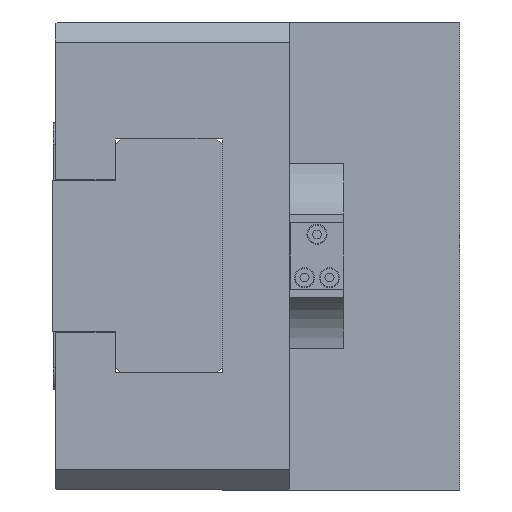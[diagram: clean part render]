
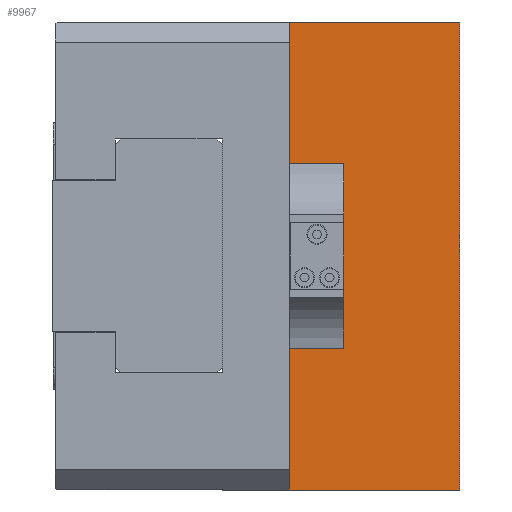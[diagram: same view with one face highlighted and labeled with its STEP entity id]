
A CAD part, left-side view. The second image highlights one B-rep face of the part: STEP entity #9967.
In plain terms, the highlighted planar face has unit normal (-1, 0, 0).
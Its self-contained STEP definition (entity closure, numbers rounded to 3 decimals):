
#217 = CARTESIAN_POINT ( 'NONE',  ( -105., 0., -70. ) ) ;
#1549 = VECTOR ( 'NONE', #15954, 1000. ) ;
#1562 = CARTESIAN_POINT ( 'NONE',  ( -105., 0., 70. ) ) ;
#1703 = EDGE_CURVE ( 'NONE', #13410, #2495, #10967, .T. ) ;
#2484 = CARTESIAN_POINT ( 'NONE',  ( -105., 51., -27.525 ) ) ;
#2495 = VERTEX_POINT ( 'NONE', #9356 ) ;
#2650 = VECTOR ( 'NONE', #13399, 1000. ) ;
#2967 = VERTEX_POINT ( 'NONE', #8962 ) ;
#2969 = CARTESIAN_POINT ( 'NONE',  ( -105., 51., 70. ) ) ;
#3210 = VECTOR ( 'NONE', #6909, 1000. ) ;
#3637 = EDGE_CURVE ( 'NONE', #13899, #4311, #5336, .T. ) ;
#3652 = DIRECTION ( 'NONE',  ( 0., 0., -1. ) ) ;
#3777 = CARTESIAN_POINT ( 'NONE',  ( -105., 0., 70. ) ) ;
#3836 = LINE ( 'NONE', #15697, #8086 ) ;
#3985 = ORIENTED_EDGE ( 'NONE', *, *, #1703, .F. ) ;
#4122 = ORIENTED_EDGE ( 'NONE', *, *, #17007, .T. ) ;
#4237 = AXIS2_PLACEMENT_3D ( 'NONE', #17136, #4847, #13125 ) ;
#4310 = VERTEX_POINT ( 'NONE', #2969 ) ;
#4311 = VERTEX_POINT ( 'NONE', #9577 ) ;
#4699 = VERTEX_POINT ( 'NONE', #217 ) ;
#4847 = DIRECTION ( 'NONE',  ( -1., 0., 0. ) ) ;
#4902 = VECTOR ( 'NONE', #11023, 1000. ) ;
#5143 = VECTOR ( 'NONE', #3652, 1000. ) ;
#5336 = LINE ( 'NONE', #12131, #14298 ) ;
#5594 = VERTEX_POINT ( 'NONE', #1562 ) ;
#6099 = CARTESIAN_POINT ( 'NONE',  ( -105., 51., -27.525 ) ) ;
#6909 = DIRECTION ( 'NONE',  ( 0., 0., -1. ) ) ;
#7808 = ORIENTED_EDGE ( 'NONE', *, *, #16210, .F. ) ;
#7887 = CARTESIAN_POINT ( 'NONE',  ( -105., 34.75, 70. ) ) ;
#7941 = LINE ( 'NONE', #12211, #1549 ) ;
#8086 = VECTOR ( 'NONE', #8989, 1000. ) ;
#8429 = EDGE_LOOP ( 'NONE', ( #3985, #4122, #7808, #12254, #12582, #10861, #13066, #12857 ) ) ;
#8741 = LINE ( 'NONE', #7887, #5143 ) ;
#8956 = EDGE_CURVE ( 'NONE', #5594, #4310, #13068, .T. ) ;
#8962 = CARTESIAN_POINT ( 'NONE',  ( -105., 51., -70. ) ) ;
#8989 = DIRECTION ( 'NONE',  ( 0., 0., -1. ) ) ;
#9356 = CARTESIAN_POINT ( 'NONE',  ( -105., 34.75, -27.525 ) ) ;
#9383 = DIRECTION ( 'NONE',  ( 0., 1., 0. ) ) ;
#9577 = CARTESIAN_POINT ( 'NONE',  ( -105., 34.75, 27.525 ) ) ;
#9828 = FACE_OUTER_BOUND ( 'NONE', #8429, .T. ) ;
#9967 = ADVANCED_FACE ( 'NONE', ( #9828 ), #14442, .T. ) ;
#10861 = ORIENTED_EDGE ( 'NONE', *, *, #17445, .T. ) ;
#10967 = LINE ( 'NONE', #2484, #2650 ) ;
#11023 = DIRECTION ( 'NONE',  ( 0., 0., -1. ) ) ;
#11113 = CARTESIAN_POINT ( 'NONE',  ( -105., 51., 70. ) ) ;
#11371 = VECTOR ( 'NONE', #9383, 1000. ) ;
#11458 = CARTESIAN_POINT ( 'NONE',  ( -105., 51., 27.525 ) ) ;
#12131 = CARTESIAN_POINT ( 'NONE',  ( -105., 51., 27.525 ) ) ;
#12183 = DIRECTION ( 'NONE',  ( 0., -1., 0. ) ) ;
#12211 = CARTESIAN_POINT ( 'NONE',  ( -105., 0., -70. ) ) ;
#12254 = ORIENTED_EDGE ( 'NONE', *, *, #17314, .F. ) ;
#12582 = ORIENTED_EDGE ( 'NONE', *, *, #8956, .T. ) ;
#12857 = ORIENTED_EDGE ( 'NONE', *, *, #16760, .T. ) ;
#13066 = ORIENTED_EDGE ( 'NONE', *, *, #3637, .T. ) ;
#13068 = LINE ( 'NONE', #3777, #11371 ) ;
#13125 = DIRECTION ( 'NONE',  ( 0., 0., 1. ) ) ;
#13399 = DIRECTION ( 'NONE',  ( 0., -1., 0. ) ) ;
#13410 = VERTEX_POINT ( 'NONE', #6099 ) ;
#13715 = CARTESIAN_POINT ( 'NONE',  ( -105., 51., 70. ) ) ;
#13877 = LINE ( 'NONE', #13715, #4902 ) ;
#13890 = LINE ( 'NONE', #11113, #3210 ) ;
#13899 = VERTEX_POINT ( 'NONE', #11458 ) ;
#14298 = VECTOR ( 'NONE', #12183, 1000. ) ;
#14442 = PLANE ( 'NONE',  #4237 ) ;
#15697 = CARTESIAN_POINT ( 'NONE',  ( -105., 0., 70. ) ) ;
#15954 = DIRECTION ( 'NONE',  ( 0., 1., 0. ) ) ;
#16210 = EDGE_CURVE ( 'NONE', #4699, #2967, #7941, .T. ) ;
#16760 = EDGE_CURVE ( 'NONE', #4311, #2495, #8741, .T. ) ;
#17007 = EDGE_CURVE ( 'NONE', #13410, #2967, #13890, .T. ) ;
#17136 = CARTESIAN_POINT ( 'NONE',  ( -105., 0., 70. ) ) ;
#17314 = EDGE_CURVE ( 'NONE', #5594, #4699, #3836, .T. ) ;
#17445 = EDGE_CURVE ( 'NONE', #4310, #13899, #13877, .T. ) ;
